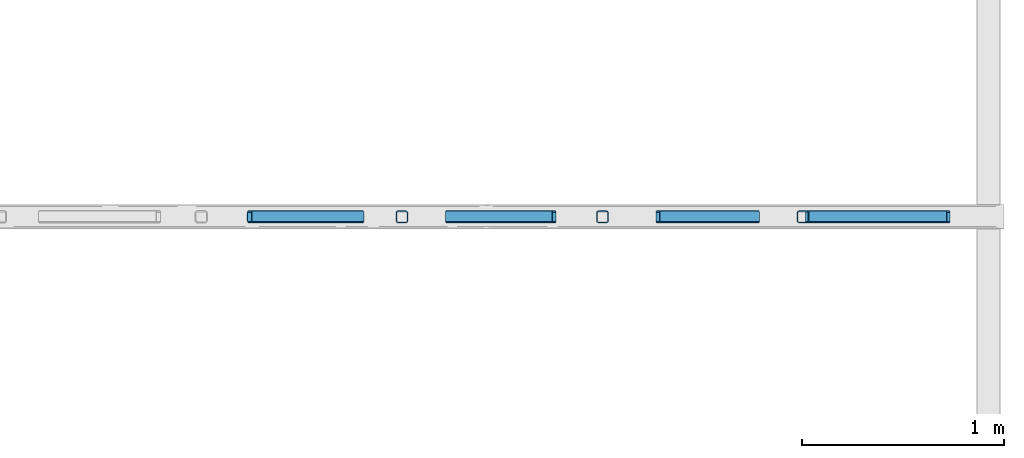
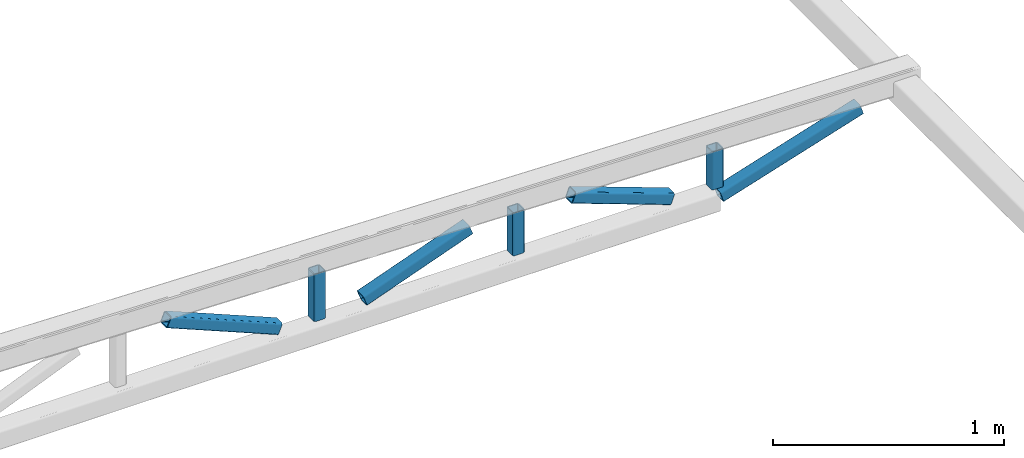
# One storey, part 10 of 10: 7 members, 1 element without a shape of its own.
"""IFC2X3 building model written with IfcOpenShell, lengths in millimetres."""

from ifc_helpers import new_model, entity, si_unit, converted_unit, derived_unit, direction, frame, frame_2d, origin, place, context, subcontext, project, spatial, polyline, circle_curve, parameter, trimmed, segment, composite_curve, outline, extrude, source, transform, mapped, type_object, type_shapes, element, aggregate, save


model = new_model("IFC2X3")

# Units and contexts
model_context = context("Model", 3, precision=0.01, world=origin(), true_north=direction((6.12303176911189e-17, 1.0)))
body_context = subcontext(model_context, "Body", "Model", "MODEL_VIEW")
ifc_project = project(units=[si_unit("LENGTHUNIT", "METRE", prefix="MILLI"), si_unit("AREAUNIT", "SQUARE_METRE"), si_unit("VOLUMEUNIT", "CUBIC_METRE"), converted_unit("PLANEANGLEUNIT", "DEGREE", entity("IfcRatioMeasure", 0.0174532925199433), si_unit("PLANEANGLEUNIT", "RADIAN"), dimensions=[0, 0, 0, 0, 0, 0, 0]), si_unit("MASSUNIT", "GRAM", prefix="KILO"), derived_unit("MASSDENSITYUNIT", [(si_unit("MASSUNIT", "GRAM", prefix="KILO"), 1), (si_unit("LENGTHUNIT", "METRE"), -3)]), si_unit("TIMEUNIT", "SECOND"), si_unit("FREQUENCYUNIT", "HERTZ"), si_unit("THERMODYNAMICTEMPERATUREUNIT", "DEGREE_CELSIUS"), derived_unit("THERMALTRANSMITTANCEUNIT", [(si_unit("MASSUNIT", "GRAM", prefix="KILO"), 1), (si_unit("THERMODYNAMICTEMPERATUREUNIT", "KELVIN"), -1), (si_unit("TIMEUNIT", "SECOND"), -3)]), derived_unit("VOLUMETRICFLOWRATEUNIT", [(si_unit("LENGTHUNIT", "METRE"), 3), (si_unit("TIMEUNIT", "SECOND"), -1)]), si_unit("ELECTRICCURRENTUNIT", "AMPERE"), si_unit("ELECTRICVOLTAGEUNIT", "VOLT"), si_unit("POWERUNIT", "WATT"), si_unit("FORCEUNIT", "NEWTON", prefix="KILO"), si_unit("ILLUMINANCEUNIT", "LUX"), si_unit("LUMINOUSFLUXUNIT", "LUMEN"), si_unit("LUMINOUSINTENSITYUNIT", "CANDELA"), derived_unit("USERDEFINED", [(si_unit("MASSUNIT", "GRAM", prefix="KILO"), -1), (si_unit("LENGTHUNIT", "METRE"), -2), (si_unit("TIMEUNIT", "SECOND"), 3), (si_unit("LUMINOUSFLUXUNIT", "LUMEN"), 1)]), derived_unit("LINEARVELOCITYUNIT", [(si_unit("LENGTHUNIT", "METRE"), 1), (si_unit("TIMEUNIT", "SECOND"), -1)]), si_unit("PRESSUREUNIT", "PASCAL"), derived_unit("USERDEFINED", [(si_unit("LENGTHUNIT", "METRE"), -2), (si_unit("MASSUNIT", "GRAM", prefix="KILO"), 1), (si_unit("TIMEUNIT", "SECOND"), -2)])], contexts=[model_context])

# Site, building, storey
site_placement = place(None, frame((0.0, 0.0, 101000.0)))
site = spatial("IfcSite", under=ifc_project, at=site_placement, Name="Default", CompositionType="ELEMENT")
building_placement = place(site_placement, origin())
building = spatial("IfcBuilding", under=site, at=building_placement, CompositionType="ELEMENT")
storey_placement = place(building_placement, frame((0.0, 0.0, 6025.0)))
storey = spatial("IfcBuildingStorey", under=building, at=storey_placement, Name="03", CompositionType="ELEMENT", Elevation=6024.9999999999)

# Assembly, members
assembly_placement = place(storey_placement, origin())
assembly = element("IfcElementAssembly", 1, at=assembly_placement, inside=storey, Name="Gitterdrager:Standard", ObjectType="Gitterdrager:Standard", AssemblyPlace="NOTDEFINED", PredefinedType="TRUSS")
member_type_1 = type_object("IfcMemberType", Name="60x60x5", PredefinedType="BRACE")
shared_shape_1 = source(origin(), body_context, "Body", "SweptSolid", [
    extrude(outline(composite_curve([segment(trimmed(circle_curve(frame_2d((-20.0, -20.0), x_axis=(1.0, 0.0)), 10.0), [parameter(180.0)], [parameter(270.0)], True, "PARAMETER"), True, "CONTINUOUS"), segment(polyline([(-20.0, -30.0), (20.0, -30.0)]), True, "CONTINUOUS"), segment(trimmed(circle_curve(frame_2d((20.0, -20.0), x_axis=(1.0, 0.0)), 10.0), [parameter(270.0)], [parameter(5.08888749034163e-14)], True, "PARAMETER"), True, "CONTINUOUS"), segment(polyline([(30.0, -20.0), (30.0, 20.0)]), True, "CONTINUOUS"), segment(trimmed(circle_curve(frame_2d((20.0, 20.0), x_axis=(1.0, 0.0)), 10.0), [parameter(360.0)], [parameter(89.9999999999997)], True, "PARAMETER"), True, "CONTINUOUS"), segment(polyline([(20.0, 30.0), (-20.0, 30.0)]), True, "CONTINUOUS"), segment(trimmed(circle_curve(frame_2d((-20.0, 20.0), x_axis=(1.0, 0.0)), 10.0), [parameter(90.0000000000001)], [parameter(180.0)], True, "PARAMETER"), True, "CONTINUOUS"), segment(polyline([(-30.0, 20.0), (-30.0, -20.0)]), True, "CONTINUOUS")], self_intersect=False), holes=[composite_curve([segment(polyline([(20.0, -25.0), (-20.0, -25.0)]), True, "CONTINUOUS"), segment(trimmed(circle_curve(frame_2d((-20.0, -20.0), x_axis=(1.0, 0.0)), 5.0), [parameter(180.0)], [parameter(270.0)], True, "PARAMETER"), False, "CONTINUOUS"), segment(polyline([(-25.0, -20.0), (-25.0, 20.0)]), True, "CONTINUOUS"), segment(trimmed(circle_curve(frame_2d((-20.0, 20.0), x_axis=(1.0, 0.0)), 5.0), [parameter(90.0000000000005)], [parameter(180.0)], True, "PARAMETER"), False, "CONTINUOUS"), segment(polyline([(-20.0, 25.0), (20.0, 25.0)]), True, "CONTINUOUS"), segment(trimmed(circle_curve(frame_2d((20.0, 20.0), x_axis=(1.0, 0.0)), 5.0), [parameter(0.0)], [parameter(90.0000000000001)], True, "PARAMETER"), False, "CONTINUOUS"), segment(polyline([(25.0, 20.0), (25.0, -20.0)]), True, "CONTINUOUS"), segment(trimmed(circle_curve(frame_2d((20.0, -20.0), x_axis=(1.0, 0.0)), 5.0), [parameter(270.0)], [parameter(4.57999874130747e-13)], True, "PARAMETER"), False, "CONTINUOUS")], self_intersect=False)]), frame((-130.995453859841, 0.0, 0.0), z_axis=(1.0, 0.0, 0.0), x_axis=(0.0, -1.0, 0.0)), (0.0, 0.0, 1.0), 250.455480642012),
])
type_shapes(member_type_1, [shared_shape_1])
member_1_placement = place(assembly_placement, frame((20206.2644969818, 38432.1864743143, -147.328300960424), z_axis=(1.0, 0.0, 0.0), x_axis=(0.0, 0.0, 1.0)))
member_1 = element("IfcMember", 2, at=member_1_placement, type_object=member_type_1, Name="Bjelke HUP:60x60x5", ObjectType="60x60x5", context=body_context, shape_type="MappedRepresentation", body=[
    mapped(shared_shape_1, transform((0.0, 0.0, 0.0), scale=1.0)),
])
member_type_2 = type_object("IfcMemberType", Name="60x60x5", PredefinedType="BRACE")
shared_shape_2 = source(origin(), body_context, "Body", "SweptSolid", [
    extrude(outline(composite_curve([segment(trimmed(circle_curve(frame_2d((-20.0, -20.0), x_axis=(1.0, 0.0)), 10.0), [parameter(180.0)], [parameter(270.0)], True, "PARAMETER"), True, "CONTINUOUS"), segment(polyline([(-20.0, -30.0), (20.0, -30.0)]), True, "CONTINUOUS"), segment(trimmed(circle_curve(frame_2d((20.0, -20.0), x_axis=(1.0, 0.0)), 10.0), [parameter(270.0)], [parameter(5.08888749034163e-14)], True, "PARAMETER"), True, "CONTINUOUS"), segment(polyline([(30.0, -20.0), (30.0, 20.0)]), True, "CONTINUOUS"), segment(trimmed(circle_curve(frame_2d((20.0, 20.0), x_axis=(1.0, 0.0)), 10.0), [parameter(360.0)], [parameter(89.9999999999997)], True, "PARAMETER"), True, "CONTINUOUS"), segment(polyline([(20.0, 30.0), (-20.0, 30.0)]), True, "CONTINUOUS"), segment(trimmed(circle_curve(frame_2d((-20.0, 20.0), x_axis=(1.0, 0.0)), 10.0), [parameter(90.0000000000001)], [parameter(180.0)], True, "PARAMETER"), True, "CONTINUOUS"), segment(polyline([(-30.0, 20.0), (-30.0, -20.0)]), True, "CONTINUOUS")], self_intersect=False), holes=[composite_curve([segment(polyline([(20.0, -25.0), (-20.0, -25.0)]), True, "CONTINUOUS"), segment(trimmed(circle_curve(frame_2d((-20.0, -20.0), x_axis=(1.0, 0.0)), 5.0), [parameter(180.0)], [parameter(270.0)], True, "PARAMETER"), False, "CONTINUOUS"), segment(polyline([(-25.0, -20.0), (-25.0, 20.0)]), True, "CONTINUOUS"), segment(trimmed(circle_curve(frame_2d((-20.0, 20.0), x_axis=(1.0, 0.0)), 5.0), [parameter(90.0000000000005)], [parameter(180.0)], True, "PARAMETER"), False, "CONTINUOUS"), segment(polyline([(-20.0, 25.0), (20.0, 25.0)]), True, "CONTINUOUS"), segment(trimmed(circle_curve(frame_2d((20.0, 20.0), x_axis=(1.0, 0.0)), 5.0), [parameter(0.0)], [parameter(90.0000000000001)], True, "PARAMETER"), False, "CONTINUOUS"), segment(polyline([(25.0, 20.0), (25.0, -20.0)]), True, "CONTINUOUS"), segment(trimmed(circle_curve(frame_2d((20.0, -20.0), x_axis=(1.0, 0.0)), 5.0), [parameter(270.0)], [parameter(4.57999874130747e-13)], True, "PARAMETER"), False, "CONTINUOUS")], self_intersect=False)]), frame((-118.596969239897, 0.0, 0.0), z_axis=(1.0, 0.0, 0.0), x_axis=(0.0, -1.0, 0.0)), (0.0, 0.0, 1.0), 225.658511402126),
])
type_shapes(member_type_2, [shared_shape_2])
member_2_placement = place(assembly_placement, frame((21199.5978303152, 38432.1864743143, -159.726785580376), z_axis=(1.0, 0.0, 0.0), x_axis=(0.0, 0.0, 1.0)))
member_2 = element("IfcMember", 3, at=member_2_placement, type_object=member_type_2, Name="Bjelke HUP:60x60x5", ObjectType="60x60x5", context=body_context, shape_type="MappedRepresentation", body=[
    mapped(shared_shape_2, transform((0.0, 0.0, 0.0), scale=1.0)),
])
member_type_3 = type_object("IfcMemberType", Name="60x60x5", PredefinedType="BRACE")
shared_shape_3 = source(origin(), body_context, "Body", "SweptSolid", [
    extrude(outline(composite_curve([segment(trimmed(circle_curve(frame_2d((-20.0, -20.0), x_axis=(1.0, 0.0)), 10.0), [parameter(180.0)], [parameter(270.0)], True, "PARAMETER"), True, "CONTINUOUS"), segment(polyline([(-20.0, -30.0), (20.0, -30.0)]), True, "CONTINUOUS"), segment(trimmed(circle_curve(frame_2d((20.0, -20.0), x_axis=(1.0, 0.0)), 10.0), [parameter(270.0)], [parameter(5.08888749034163e-14)], True, "PARAMETER"), True, "CONTINUOUS"), segment(polyline([(30.0, -20.0), (30.0, 20.0)]), True, "CONTINUOUS"), segment(trimmed(circle_curve(frame_2d((20.0, 20.0), x_axis=(1.0, 0.0)), 10.0), [parameter(360.0)], [parameter(89.9999999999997)], True, "PARAMETER"), True, "CONTINUOUS"), segment(polyline([(20.0, 30.0), (-20.0, 30.0)]), True, "CONTINUOUS"), segment(trimmed(circle_curve(frame_2d((-20.0, 20.0), x_axis=(1.0, 0.0)), 10.0), [parameter(90.0000000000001)], [parameter(180.0)], True, "PARAMETER"), True, "CONTINUOUS"), segment(polyline([(-30.0, 20.0), (-30.0, -20.0)]), True, "CONTINUOUS")], self_intersect=False), holes=[composite_curve([segment(polyline([(20.0, -25.0), (-20.0, -25.0)]), True, "CONTINUOUS"), segment(trimmed(circle_curve(frame_2d((-20.0, -20.0), x_axis=(1.0, 0.0)), 5.0), [parameter(180.0)], [parameter(270.0)], True, "PARAMETER"), False, "CONTINUOUS"), segment(polyline([(-25.0, -20.0), (-25.0, 20.0)]), True, "CONTINUOUS"), segment(trimmed(circle_curve(frame_2d((-20.0, 20.0), x_axis=(1.0, 0.0)), 5.0), [parameter(90.0000000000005)], [parameter(180.0)], True, "PARAMETER"), False, "CONTINUOUS"), segment(polyline([(-20.0, 25.0), (20.0, 25.0)]), True, "CONTINUOUS"), segment(trimmed(circle_curve(frame_2d((20.0, 20.0), x_axis=(1.0, 0.0)), 5.0), [parameter(0.0)], [parameter(90.0000000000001)], True, "PARAMETER"), False, "CONTINUOUS"), segment(polyline([(25.0, 20.0), (25.0, -20.0)]), True, "CONTINUOUS"), segment(trimmed(circle_curve(frame_2d((20.0, -20.0), x_axis=(1.0, 0.0)), 5.0), [parameter(270.0)], [parameter(4.57999874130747e-13)], True, "PARAMETER"), False, "CONTINUOUS")], self_intersect=False)]), frame((-106.198484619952, 0.0, 0.0), z_axis=(1.0, 0.0, 0.0), x_axis=(0.0, -1.0, 0.0)), (0.0, 0.0, 1.0), 200.861542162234),
])
type_shapes(member_type_3, [shared_shape_3])
member_3_placement = place(assembly_placement, frame((22192.9311636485, 38432.1864743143, -172.125270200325), z_axis=(1.0, 0.0, 0.0), x_axis=(0.0, 0.0, 1.0)))
member_3 = element("IfcMember", 4, at=member_3_placement, type_object=member_type_3, Name="Bjelke HUP:60x60x5", ObjectType="60x60x5", context=body_context, shape_type="MappedRepresentation", body=[
    mapped(shared_shape_3, transform((0.0, 0.0, 0.0), scale=1.0)),
])
member_type_4 = type_object("IfcMemberType", Name="60x60x5", PredefinedType="BRACE")
shared_shape_4 = source(origin(), body_context, "Body", "SweptSolid", [
    extrude(outline(composite_curve([segment(trimmed(circle_curve(frame_2d((-20.0, -20.0), x_axis=(1.0, 0.0)), 10.0), [parameter(180.0)], [parameter(270.0)], True, "PARAMETER"), True, "CONTINUOUS"), segment(polyline([(-20.0, -30.0), (20.0, -30.0)]), True, "CONTINUOUS"), segment(trimmed(circle_curve(frame_2d((20.0, -20.0), x_axis=(1.0, 0.0)), 10.0), [parameter(270.0)], [parameter(5.08888749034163e-14)], True, "PARAMETER"), True, "CONTINUOUS"), segment(polyline([(30.0, -20.0), (30.0, 20.0)]), True, "CONTINUOUS"), segment(trimmed(circle_curve(frame_2d((20.0, 20.0), x_axis=(1.0, 0.0)), 10.0), [parameter(360.0)], [parameter(89.9999999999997)], True, "PARAMETER"), True, "CONTINUOUS"), segment(polyline([(20.0, 30.0), (-20.0, 30.0)]), True, "CONTINUOUS"), segment(trimmed(circle_curve(frame_2d((-20.0, 20.0), x_axis=(1.0, 0.0)), 10.0), [parameter(90.0000000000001)], [parameter(180.0)], True, "PARAMETER"), True, "CONTINUOUS"), segment(polyline([(-30.0, 20.0), (-30.0, -20.0)]), True, "CONTINUOUS")], self_intersect=False), holes=[composite_curve([segment(polyline([(20.0, -25.0), (-20.0, -25.0)]), True, "CONTINUOUS"), segment(trimmed(circle_curve(frame_2d((-20.0, -20.0), x_axis=(1.0, 0.0)), 5.0), [parameter(180.0)], [parameter(270.0)], True, "PARAMETER"), False, "CONTINUOUS"), segment(polyline([(-25.0, -20.0), (-25.0, 20.0)]), True, "CONTINUOUS"), segment(trimmed(circle_curve(frame_2d((-20.0, 20.0), x_axis=(1.0, 0.0)), 5.0), [parameter(90.0000000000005)], [parameter(180.0)], True, "PARAMETER"), False, "CONTINUOUS"), segment(polyline([(-20.0, 25.0), (20.0, 25.0)]), True, "CONTINUOUS"), segment(trimmed(circle_curve(frame_2d((20.0, 20.0), x_axis=(1.0, 0.0)), 5.0), [parameter(0.0)], [parameter(90.0000000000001)], True, "PARAMETER"), False, "CONTINUOUS"), segment(polyline([(25.0, 20.0), (25.0, -20.0)]), True, "CONTINUOUS"), segment(trimmed(circle_curve(frame_2d((20.0, -20.0), x_axis=(1.0, 0.0)), 5.0), [parameter(270.0)], [parameter(4.57999874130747e-13)], True, "PARAMETER"), False, "CONTINUOUS")], self_intersect=False)]), frame((-278.55434519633, 0.0, 0.0), z_axis=(1.0, 0.0, 0.0), x_axis=(0.0, -1.0, 0.0)), (0.0, 0.0, 1.0), 600.828967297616),
])
type_shapes(member_type_4, [shared_shape_4])
member_4_placement = place(assembly_placement, frame((19709.5978303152, 38432.1864743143, -134.929816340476), z_axis=(-0.38326728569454, 0.0, -0.923637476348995), x_axis=(0.923637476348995, 0.0, -0.38326728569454)))
member_4 = element("IfcMember", 5, at=member_4_placement, type_object=member_type_4, Name="Bjelke HUP:60x60x5", ObjectType="60x60x5", context=body_context, shape_type="MappedRepresentation", body=[
    mapped(shared_shape_4, transform((0.0, 0.0, 0.0), scale=1.0)),
])
member_type_5 = type_object("IfcMemberType", Name="60x60x5", PredefinedType="BRACE")
shared_shape_5 = source(origin(), body_context, "Body", "SweptSolid", [
    extrude(outline(composite_curve([segment(trimmed(circle_curve(frame_2d((-20.0, -20.0), x_axis=(1.0, 0.0)), 10.0), [parameter(180.0)], [parameter(270.0)], True, "PARAMETER"), True, "CONTINUOUS"), segment(polyline([(-20.0, -30.0), (20.0, -30.0)]), True, "CONTINUOUS"), segment(trimmed(circle_curve(frame_2d((20.0, -20.0), x_axis=(1.0, 0.0)), 10.0), [parameter(270.0)], [parameter(5.08888749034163e-14)], True, "PARAMETER"), True, "CONTINUOUS"), segment(polyline([(30.0, -20.0), (30.0, 20.0)]), True, "CONTINUOUS"), segment(trimmed(circle_curve(frame_2d((20.0, 20.0), x_axis=(1.0, 0.0)), 10.0), [parameter(360.0)], [parameter(89.9999999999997)], True, "PARAMETER"), True, "CONTINUOUS"), segment(polyline([(20.0, 30.0), (-20.0, 30.0)]), True, "CONTINUOUS"), segment(trimmed(circle_curve(frame_2d((-20.0, 20.0), x_axis=(1.0, 0.0)), 10.0), [parameter(90.0000000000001)], [parameter(180.0)], True, "PARAMETER"), True, "CONTINUOUS"), segment(polyline([(-30.0, 20.0), (-30.0, -20.0)]), True, "CONTINUOUS")], self_intersect=False), holes=[composite_curve([segment(polyline([(20.0, -25.0), (-20.0, -25.0)]), True, "CONTINUOUS"), segment(trimmed(circle_curve(frame_2d((-20.0, -20.0), x_axis=(1.0, 0.0)), 5.0), [parameter(180.0)], [parameter(270.0)], True, "PARAMETER"), False, "CONTINUOUS"), segment(polyline([(-25.0, -20.0), (-25.0, 20.0)]), True, "CONTINUOUS"), segment(trimmed(circle_curve(frame_2d((-20.0, 20.0), x_axis=(1.0, 0.0)), 5.0), [parameter(90.0000000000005)], [parameter(180.0)], True, "PARAMETER"), False, "CONTINUOUS"), segment(polyline([(-20.0, 25.0), (20.0, 25.0)]), True, "CONTINUOUS"), segment(trimmed(circle_curve(frame_2d((20.0, 20.0), x_axis=(1.0, 0.0)), 5.0), [parameter(0.0)], [parameter(90.0000000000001)], True, "PARAMETER"), False, "CONTINUOUS"), segment(polyline([(25.0, 20.0), (25.0, -20.0)]), True, "CONTINUOUS"), segment(trimmed(circle_curve(frame_2d((20.0, -20.0), x_axis=(1.0, 0.0)), 5.0), [parameter(270.0)], [parameter(4.57999874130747e-13)], True, "PARAMETER"), False, "CONTINUOUS")], self_intersect=False)]), frame((-288.019442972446, 0.0, 0.0), z_axis=(1.0, 0.0, 0.0), x_axis=(0.0, -1.0, 0.0)), (0.0, 0.0, 1.0), 561.890828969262),
])
type_shapes(member_type_5, [shared_shape_5])
member_5_placement = place(assembly_placement, frame((20702.9311636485, 38432.1864743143, -159.726785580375), z_axis=(0.342896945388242, 0.0, -0.939373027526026), x_axis=(0.939373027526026, 0.0, 0.342896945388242)))
member_5 = element("IfcMember", 6, at=member_5_placement, type_object=member_type_5, Name="Bjelke HUP:60x60x5", ObjectType="60x60x5", context=body_context, shape_type="MappedRepresentation", body=[
    mapped(shared_shape_5, transform((0.0, 0.0, 0.0), scale=1.0)),
])
member_type_6 = type_object("IfcMemberType", Name="60x60x5", PredefinedType="BRACE")
shared_shape_6 = source(origin(), body_context, "Body", "SweptSolid", [
    extrude(outline(composite_curve([segment(trimmed(circle_curve(frame_2d((-20.0, -20.0), x_axis=(1.0, 0.0)), 10.0), [parameter(180.0)], [parameter(270.0)], True, "PARAMETER"), True, "CONTINUOUS"), segment(polyline([(-20.0, -30.0), (20.0, -30.0)]), True, "CONTINUOUS"), segment(trimmed(circle_curve(frame_2d((20.0, -20.0), x_axis=(1.0, 0.0)), 10.0), [parameter(270.0)], [parameter(5.08888749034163e-14)], True, "PARAMETER"), True, "CONTINUOUS"), segment(polyline([(30.0, -20.0), (30.0, 20.0)]), True, "CONTINUOUS"), segment(trimmed(circle_curve(frame_2d((20.0, 20.0), x_axis=(1.0, 0.0)), 10.0), [parameter(360.0)], [parameter(89.9999999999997)], True, "PARAMETER"), True, "CONTINUOUS"), segment(polyline([(20.0, 30.0), (-20.0, 30.0)]), True, "CONTINUOUS"), segment(trimmed(circle_curve(frame_2d((-20.0, 20.0), x_axis=(1.0, 0.0)), 10.0), [parameter(90.0000000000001)], [parameter(180.0)], True, "PARAMETER"), True, "CONTINUOUS"), segment(polyline([(-30.0, 20.0), (-30.0, -20.0)]), True, "CONTINUOUS")], self_intersect=False), holes=[composite_curve([segment(polyline([(20.0, -25.0), (-20.0, -25.0)]), True, "CONTINUOUS"), segment(trimmed(circle_curve(frame_2d((-20.0, -20.0), x_axis=(1.0, 0.0)), 5.0), [parameter(180.0)], [parameter(270.0)], True, "PARAMETER"), False, "CONTINUOUS"), segment(polyline([(-25.0, -20.0), (-25.0, 20.0)]), True, "CONTINUOUS"), segment(trimmed(circle_curve(frame_2d((-20.0, 20.0), x_axis=(1.0, 0.0)), 5.0), [parameter(90.0000000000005)], [parameter(180.0)], True, "PARAMETER"), False, "CONTINUOUS"), segment(polyline([(-20.0, 25.0), (20.0, 25.0)]), True, "CONTINUOUS"), segment(trimmed(circle_curve(frame_2d((20.0, 20.0), x_axis=(1.0, 0.0)), 5.0), [parameter(0.0)], [parameter(90.0000000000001)], True, "PARAMETER"), False, "CONTINUOUS"), segment(polyline([(25.0, 20.0), (25.0, -20.0)]), True, "CONTINUOUS"), segment(trimmed(circle_curve(frame_2d((20.0, -20.0), x_axis=(1.0, 0.0)), 5.0), [parameter(270.0)], [parameter(4.57999874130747e-13)], True, "PARAMETER"), False, "CONTINUOUS")], self_intersect=False)]), frame((-236.712172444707, 0.0, 0.0), z_axis=(1.0, 0.0, 0.0), x_axis=(0.0, -1.0, 0.0)), (0.0, 0.0, 1.0), 524.731615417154),
])
type_shapes(member_type_6, [shared_shape_6])
member_6_placement = place(assembly_placement, frame((21696.2644969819, 38432.1864743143, -159.726785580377), z_axis=(-0.342896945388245, 0.0, -0.939373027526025), x_axis=(0.939373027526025, 0.0, -0.342896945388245)))
member_6 = element("IfcMember", 7, at=member_6_placement, type_object=member_type_6, Name="Bjelke HUP:60x60x5", ObjectType="60x60x5", context=body_context, shape_type="MappedRepresentation", body=[
    mapped(shared_shape_6, transform((0.0, 0.0, 0.0), scale=1.0)),
])
member_type_7 = type_object("IfcMemberType", Name="60x60x5", PredefinedType="BRACE")
shared_shape_7 = source(origin(), body_context, "Body", "SweptSolid", [
    extrude(outline(composite_curve([segment(trimmed(circle_curve(frame_2d((-20.0, -20.0), x_axis=(1.0, 0.0)), 10.0), [parameter(180.0)], [parameter(270.0)], True, "PARAMETER"), True, "CONTINUOUS"), segment(polyline([(-20.0, -30.0), (20.0, -30.0)]), True, "CONTINUOUS"), segment(trimmed(circle_curve(frame_2d((20.0, -20.0), x_axis=(1.0, 0.0)), 10.0), [parameter(270.0)], [parameter(5.08888749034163e-14)], True, "PARAMETER"), True, "CONTINUOUS"), segment(polyline([(30.0, -20.0), (30.0, 20.0)]), True, "CONTINUOUS"), segment(trimmed(circle_curve(frame_2d((20.0, 20.0), x_axis=(1.0, 0.0)), 10.0), [parameter(360.0)], [parameter(89.9999999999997)], True, "PARAMETER"), True, "CONTINUOUS"), segment(polyline([(20.0, 30.0), (-20.0, 30.0)]), True, "CONTINUOUS"), segment(trimmed(circle_curve(frame_2d((-20.0, 20.0), x_axis=(1.0, 0.0)), 10.0), [parameter(90.0000000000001)], [parameter(180.0)], True, "PARAMETER"), True, "CONTINUOUS"), segment(polyline([(-30.0, 20.0), (-30.0, -20.0)]), True, "CONTINUOUS")], self_intersect=False), holes=[composite_curve([segment(polyline([(20.0, -25.0), (-20.0, -25.0)]), True, "CONTINUOUS"), segment(trimmed(circle_curve(frame_2d((-20.0, -20.0), x_axis=(1.0, 0.0)), 5.0), [parameter(180.0)], [parameter(270.0)], True, "PARAMETER"), False, "CONTINUOUS"), segment(polyline([(-25.0, -20.0), (-25.0, 20.0)]), True, "CONTINUOUS"), segment(trimmed(circle_curve(frame_2d((-20.0, 20.0), x_axis=(1.0, 0.0)), 5.0), [parameter(90.0000000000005)], [parameter(180.0)], True, "PARAMETER"), False, "CONTINUOUS"), segment(polyline([(-20.0, 25.0), (20.0, 25.0)]), True, "CONTINUOUS"), segment(trimmed(circle_curve(frame_2d((20.0, 20.0), x_axis=(1.0, 0.0)), 5.0), [parameter(0.0)], [parameter(90.0000000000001)], True, "PARAMETER"), False, "CONTINUOUS"), segment(polyline([(25.0, 20.0), (25.0, -20.0)]), True, "CONTINUOUS"), segment(trimmed(circle_curve(frame_2d((20.0, -20.0), x_axis=(1.0, 0.0)), 5.0), [parameter(270.0)], [parameter(4.57999874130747e-13)], True, "PARAMETER"), False, "CONTINUOUS")], self_intersect=False)]), frame((-498.586864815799, 0.0, 0.0), z_axis=(1.0, 0.0, 0.0), x_axis=(0.0, -1.0, 0.0)), (0.0, 0.0, 1.0), 731.687840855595),
])
type_shapes(member_type_7, [shared_shape_7])
member_7_placement = place(assembly_placement, frame((22689.5978303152, 38432.1864743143, -184.523754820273), z_axis=(0.300533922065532, 0.0, -0.953771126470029), x_axis=(0.953771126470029, 0.0, 0.300533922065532)))
member_7 = element("IfcMember", 8, at=member_7_placement, type_object=member_type_7, Name="Bjelke HUP:60x60x5", ObjectType="60x60x5", context=body_context, shape_type="MappedRepresentation", body=[
    mapped(shared_shape_7, transform((0.0, 0.0, 0.0), scale=1.0)),
])
aggregate(assembly, [member_1, member_2, member_3, member_4, member_5, member_6, member_7])

save(model, "model.ifc")
